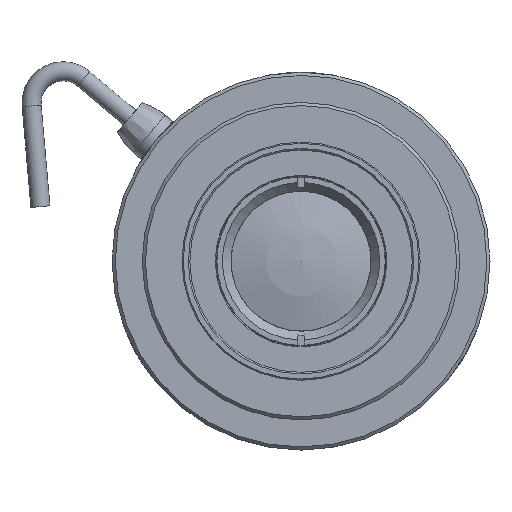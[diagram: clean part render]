
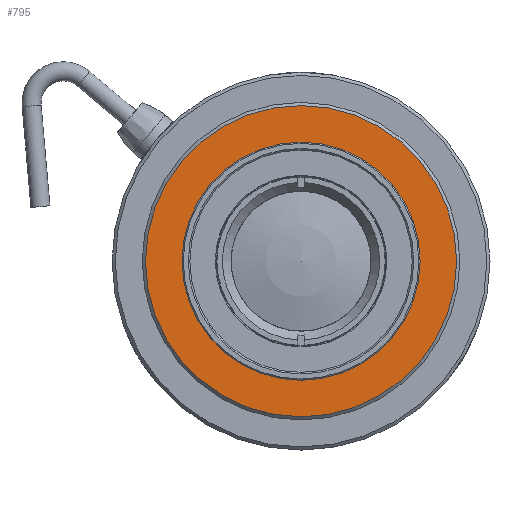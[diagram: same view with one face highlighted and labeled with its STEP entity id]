
A CAD part, front view. The second image highlights one B-rep face of the part: STEP entity #795.
In plain terms, the highlighted planar face has unit normal (0, -1, 0).
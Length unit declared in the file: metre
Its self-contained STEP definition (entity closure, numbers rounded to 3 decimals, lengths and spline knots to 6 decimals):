
#795=ADVANCED_FACE('0:2881',(#1725,#1726),#1727,.F.);
#1725=FACE_BOUND('',#2767,.T.);
#1726=FACE_OUTER_BOUND('',#2768,.T.);
#1727=PLANE('',#2769);
#2767=EDGE_LOOP('',(#4924));
#2768=EDGE_LOOP('',(#4925));
#2769=AXIS2_PLACEMENT_3D('',#4926,#4927,#4928);
#4924=ORIENTED_EDGE('',*,*,#5704,.F.);
#4925=ORIENTED_EDGE('',*,*,#6093,.F.);
#4926=CARTESIAN_POINT('',(0.0,-0.073726,0.0205));
#4927=DIRECTION('',(-0.0,1.0,0.0));
#4928=DIRECTION('',(1.0,0.0,0.0));
#5704=EDGE_CURVE('0:5434',#6823,#6823,#6824,.T.);
#6093=EDGE_CURVE('0:3805',#7407,#7407,#7408,.T.);
#6823=VERTEX_POINT('',#8444);
#6824=CIRCLE('',#8445,0.01875);
#7407=VERTEX_POINT('',#9305);
#7408=CIRCLE('',#9306,0.0245);
#8444=CARTESIAN_POINT('',(0.0,-0.073726,0.01875));
#8445=AXIS2_PLACEMENT_3D('',#10137,#10138,#10139);
#9305=CARTESIAN_POINT('',(0.0,-0.073726,0.0245));
#9306=AXIS2_PLACEMENT_3D('',#10528,#10529,#10530);
#10137=CARTESIAN_POINT('',(0.0,-0.073726,0.0));
#10138=DIRECTION('',(0.0,-1.0,0.0));
#10139=DIRECTION('',(0.0,0.0,1.0));
#10528=CARTESIAN_POINT('',(0.0,-0.073726,0.));
#10529=DIRECTION('',(0.0,1.0,0.0));
#10530=DIRECTION('',(0.0,0.0,1.0));
